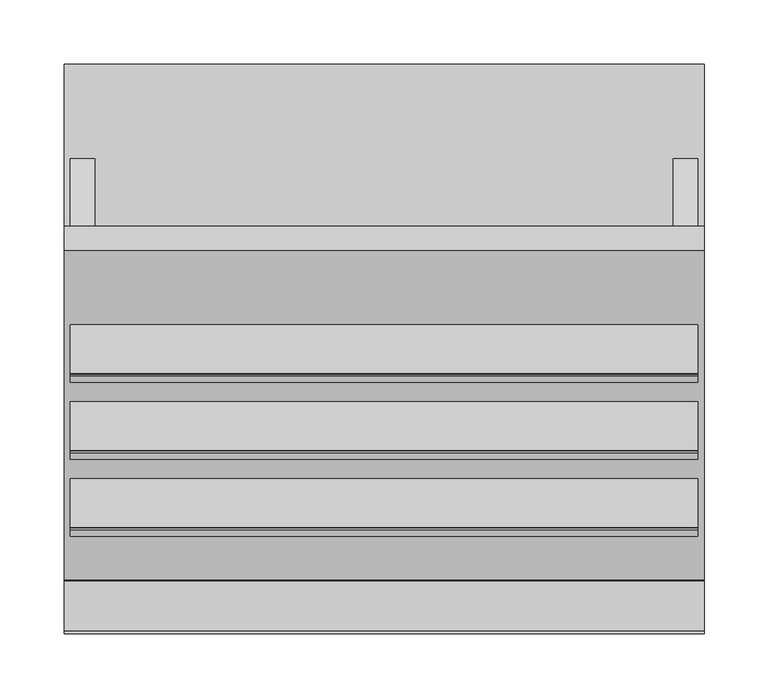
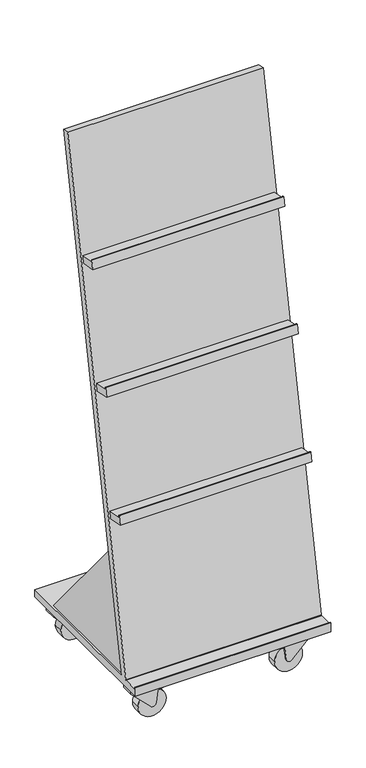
"""IFC4 building model written with IfcOpenShell, lengths in millimetres: furniture geometry, BK Library - Vaesteraas Floor Model - 1400 : BK Library - Vaesteraas Floor Model - 1400."""

from ifc_helpers import new_model, si_unit, point, frame, frame_2d, origin, place, context, project, spatial, polyline, circle_curve, trimmed, segment, composite_curve, outline, extrude, source, transform, mapped, element, save


def furniture_630a258a(model_context):
    return source(origin(), model_context, "Body", "SweptSolid", [
        extrude(outline(polyline([(148.8556172, 117.9690399), (-161.1443828, 117.9690399), (-101.9935942, 422.2734668), (148.8556172, 117.9690399)])), frame((226.0, 0.0, 0.0), z_axis=(1.0, 0.0, 0.0), x_axis=(0.0, 1.0, 0.0)), (0.0, 0.0, 1.0), 19.0),
        extrude(outline(polyline([(148.8556172, 117.9690399), (-161.1443828, 117.9690399), (-101.9935942, 422.2734668), (148.8556172, 117.9690399)])), frame((-245.0, 0.0, 0.0), z_axis=(1.0, 0.0, 0.0), x_axis=(0.0, 1.0, 0.0)), (0.0, 0.0, 1.0), 19.0),
        extrude(outline(composite_curve([segment(polyline([(-26.0537169, 1132.6416943), (-21.5733731, 1155.6910652)]), True, "CONTINUOUS"), segment(trimmed(circle_curve(frame_2d((-21.0636915, 1155.5919931)), 0.5192212), [point((-21.5733731, 1155.6910652))], [point((-20.9646195, 1156.1016747))], False, "CARTESIAN"), True, "CONTINUOUS"), segment(polyline([(-20.9646195, 1156.1016747), (-20.0306852, 1155.9201363)]), True, "CONTINUOUS"), segment(trimmed(circle_curve(frame_2d((-20.1316927, 1155.4004977)), 0.5293644), [point((-20.0306852, 1155.9201363))], [point((-19.6120542, 1155.2994902))], False, "CARTESIAN"), True, "CONTINUOUS"), segment(polyline([(-19.6120542, 1155.2994902), (-20.4650917, 1150.9109928), (18.7999957, 1143.278633), (15.1746248, 1124.6277165), (-26.0537169, 1132.6416943)]), True, "CONTINUOUS")], self_intersect=False)), frame((-245.0, 0.0, 0.0), z_axis=(1.0, 0.0, 0.0), x_axis=(0.0, 1.0, 0.0)), (0.0, 0.0, 1.0), 490.0),
        extrude(outline(composite_curve([segment(polyline([(-86.1585505, 823.4291316), (-81.6745391, 846.4973704)]), True, "CONTINUOUS"), segment(trimmed(circle_curve(frame_2d((-81.1837255, 846.4019659)), 0.5), [point((-81.6745391, 846.4973704))], [point((-81.088321, 846.8927795))], False, "CARTESIAN"), True, "CONTINUOUS"), segment(polyline([(-81.088321, 846.8927795), (-80.1066938, 846.7019705)]), True, "CONTINUOUS"), segment(trimmed(circle_curve(frame_2d((-80.2020983, 846.2111569)), 0.5), [point((-80.1066938, 846.7019705))], [point((-79.7112847, 846.1157524))], False, "CARTESIAN"), True, "CONTINUOUS"), segment(polyline([(-79.7112847, 846.1157524), (-80.5699252, 841.6984301), (-41.3048379, 834.0660702), (-44.9302088, 815.4151538), (-86.1585505, 823.4291316)]), True, "CONTINUOUS")], self_intersect=False)), frame((-245.0, 0.0, 0.0), z_axis=(1.0, 0.0, 0.0), x_axis=(0.0, 1.0, 0.0)), (0.0, 0.0, 1.0), 490.0),
        extrude(outline(composite_curve([segment(polyline([(-146.263384, 514.2165688), (-141.7793726, 537.2848076)]), True, "CONTINUOUS"), segment(trimmed(circle_curve(frame_2d((-141.2885591, 537.1894031)), 0.5), [point((-141.7793726, 537.2848076))], [point((-141.1931546, 537.6802167))], False, "CARTESIAN"), True, "CONTINUOUS"), segment(polyline([(-141.1931546, 537.6802167), (-140.2115274, 537.4894077)]), True, "CONTINUOUS"), segment(trimmed(circle_curve(frame_2d((-140.3069319, 536.9985941)), 0.5), [point((-140.2115274, 537.4894077))], [point((-139.8161183, 536.9031896))], False, "CARTESIAN"), True, "CONTINUOUS"), segment(polyline([(-139.8161183, 536.9031896), (-140.6747588, 532.4858673), (-101.4096714, 524.8535075), (-105.0350423, 506.202591), (-146.263384, 514.2165688)]), True, "CONTINUOUS")], self_intersect=False)), frame((-245.0, 0.0, 0.0), z_axis=(1.0, 0.0, 0.0), x_axis=(0.0, 1.0, 0.0)), (0.0, 0.0, 1.0), 490.0),
        extrude(outline(composite_curve([segment(polyline([(77.0921438, 1443.1657376), (95.7430602, 1439.5403667), (-161.1443828, 117.9690399), (222.5, 117.9690399), (222.5, 98.9690399), (-222.5, 98.9690399), (-222.5, 122.9690399), (-220.5, 122.9690399), (-220.5, 117.9690399), (-181.3243364, 117.9690399)]), True, "CONTINUOUS"), segment(trimmed(circle_curve(frame_2d((-181.3243364, 118.9690399)), 1.0), [point((-181.3243364, 117.9690399))], [point((-180.3427092, 118.7782309))], True, "CARTESIAN"), True, "CONTINUOUS"), segment(polyline([(-180.3427092, 118.7782309), (77.0921438, 1443.1657376)]), True, "CONTINUOUS")], self_intersect=False)), frame((-250.0, 0.0, 0.0), z_axis=(1.0, 0.0, 0.0), x_axis=(0.0, 1.0, 0.0)), (0.0, 0.0, 1.0), 500.0),
        extrude(outline(composite_curve([segment(trimmed(circle_curve(frame_2d((199.5292285, 171.1569734)), 12.5248147), [point((212.0540432, 171.1569734))], [point((187.0044137, 171.1569734))], False, "CARTESIAN"), True, "CONTINUOUS"), segment(trimmed(circle_curve(frame_2d((199.5292285, 171.1569734)), 12.5248147), [point((187.0044137, 171.1569734))], [point((212.0540432, 171.1569734))], False, "CARTESIAN"), True, "CONTINUOUS")], self_intersect=False)), frame((0.0, 0.0, 87.7), z_axis=(0.0, 0.0, 1.0), x_axis=(1.0, 0.0, 0.0)), (0.0, 0.0, 1.0), 11.2690399),
        extrude(outline(composite_curve([segment(trimmed(circle_curve(frame_2d((72.665374, 136.6185255)), 2.0), [point((72.665374, 134.6185255))], [point((70.6957585, 136.2712291))], False, "CARTESIAN"), True, "CONTINUOUS"), segment(polyline([(70.6957585, 136.2712291), (68.1469989, 150.7259632)]), True, "CONTINUOUS"), segment(trimmed(circle_curve(frame_2d((66.1773834, 150.3786669)), 2.0), [point((68.1469989, 150.7259632))], [point((66.4454242, 152.360624))], True, "CARTESIAN"), True, "CONTINUOUS"), segment(polyline([(66.4454242, 152.360624), (34.4278369, 156.6906969)]), True, "CONTINUOUS"), segment(trimmed(circle_curve(frame_2d((35.5, 164.6185255)), 8.0), [point((34.4278369, 156.6906969))], [point((29.8327739, 170.2649888))], False, "CARTESIAN"), True, "CONTINUOUS"), segment(polyline([(29.8327739, 170.2649888), (80.4985188, 221.1170388), (88.2, 221.1170388), (88.2, 134.6185255), (72.665374, 134.6185255)]), True, "CONTINUOUS")], self_intersect=False)), frame((0.0, 155.1101244, 0.0), z_axis=(0.0, 1.0, 0.0), x_axis=(0.0, 0.0, 1.0)), (0.0, 0.0, 1.0), 32.0),
        extrude(outline(composite_curve([segment(trimmed(circle_curve(frame_2d((35.6872146, 164.5149539)), 35.6947525), [point((35.6872146, 128.8202015))], [point((35.6872146, 200.2097064))], False, "CARTESIAN"), True, "CONTINUOUS"), segment(trimmed(circle_curve(frame_2d((35.6872146, 164.5149539)), 35.6947525), [point((35.6872146, 200.2097064))], [point((35.6872146, 128.8202015))], False, "CARTESIAN"), True, "CONTINUOUS")], self_intersect=False)), frame((0.0, 159.1101244, 0.0), z_axis=(0.0, 1.0, 0.0), x_axis=(0.0, 0.0, 1.0)), (0.0, 0.0, 1.0), 24.0),
        extrude(outline(composite_curve([segment(trimmed(circle_curve(frame_2d((199.5292285, -171.1569734)), 12.5248147), [point((212.0540432, -171.1569734))], [point((187.0044137, -171.1569734))], False, "CARTESIAN"), True, "CONTINUOUS"), segment(trimmed(circle_curve(frame_2d((199.5292285, -171.1569734)), 12.5248147), [point((187.0044137, -171.1569734))], [point((212.0540432, -171.1569734))], False, "CARTESIAN"), True, "CONTINUOUS")], self_intersect=False)), frame((0.0, 0.0, 87.7), z_axis=(0.0, 0.0, 1.0), x_axis=(1.0, 0.0, 0.0)), (0.0, 0.0, 1.0), 11.2690399),
        extrude(outline(composite_curve([segment(trimmed(circle_curve(frame_2d((72.665374, 136.6185255)), 2.0), [point((72.665374, 134.6185255))], [point((70.6957585, 136.2712291))], False, "CARTESIAN"), True, "CONTINUOUS"), segment(polyline([(70.6957585, 136.2712291), (68.1469989, 150.7259632)]), True, "CONTINUOUS"), segment(trimmed(circle_curve(frame_2d((66.1773834, 150.3786669)), 2.0), [point((68.1469989, 150.7259632))], [point((66.4454242, 152.360624))], True, "CARTESIAN"), True, "CONTINUOUS"), segment(polyline([(66.4454242, 152.360624), (34.4278369, 156.6906969)]), True, "CONTINUOUS"), segment(trimmed(circle_curve(frame_2d((35.5, 164.6185255)), 8.0), [point((34.4278369, 156.6906969))], [point((29.8327739, 170.2649888))], False, "CARTESIAN"), True, "CONTINUOUS"), segment(polyline([(29.8327739, 170.2649888), (80.4985188, 221.1170388), (88.2, 221.1170388), (88.2, 134.6185255), (72.665374, 134.6185255)]), True, "CONTINUOUS")], self_intersect=False)), frame((0.0, -187.1101244, 0.0), z_axis=(0.0, 1.0, 0.0), x_axis=(0.0, 0.0, 1.0)), (0.0, 0.0, 1.0), 32.0),
        extrude(outline(composite_curve([segment(trimmed(circle_curve(frame_2d((35.6872146, 164.5149539)), 35.6947525), [point((35.6872146, 128.8202015))], [point((35.6872146, 200.2097064))], False, "CARTESIAN"), True, "CONTINUOUS"), segment(trimmed(circle_curve(frame_2d((35.6872146, 164.5149539)), 35.6947525), [point((35.6872146, 200.2097064))], [point((35.6872146, 128.8202015))], False, "CARTESIAN"), True, "CONTINUOUS")], self_intersect=False)), frame((0.0, -183.1101244, 0.0), z_axis=(0.0, 1.0, 0.0), x_axis=(0.0, 0.0, 1.0)), (0.0, 0.0, 1.0), 24.0),
        extrude(outline(composite_curve([segment(trimmed(circle_curve(frame_2d((-199.5292285, -171.1569734)), 12.5248147), [point((-212.0540432, -171.1569734))], [point((-187.0044137, -171.1569734))], False, "CARTESIAN"), True, "CONTINUOUS"), segment(trimmed(circle_curve(frame_2d((-199.5292285, -171.1569734)), 12.5248147), [point((-187.0044137, -171.1569734))], [point((-212.0540432, -171.1569734))], False, "CARTESIAN"), True, "CONTINUOUS")], self_intersect=False)), frame((0.0, 0.0, 87.7), z_axis=(0.0, 0.0, 1.0), x_axis=(1.0, 0.0, 0.0)), (0.0, 0.0, 1.0), 11.2690399),
        extrude(outline(composite_curve([segment(polyline([(72.665374, -154.6185255), (88.2, -154.6185255), (88.2, -241.1170388), (80.4985188, -241.1170388), (29.8327739, -190.2649888)]), True, "CONTINUOUS"), segment(trimmed(circle_curve(frame_2d((35.5, -184.6185255)), 8.0), [point((29.8327739, -190.2649888))], [point((34.4278369, -176.6906969))], False, "CARTESIAN"), True, "CONTINUOUS"), segment(polyline([(34.4278369, -176.6906969), (66.4454242, -172.360624)]), True, "CONTINUOUS"), segment(trimmed(circle_curve(frame_2d((66.1773834, -170.3786669)), 2.0), [point((66.4454242, -172.360624))], [point((68.1469989, -170.7259632))], True, "CARTESIAN"), True, "CONTINUOUS"), segment(polyline([(68.1469989, -170.7259632), (70.6957585, -156.2712291)]), True, "CONTINUOUS"), segment(trimmed(circle_curve(frame_2d((72.665374, -156.6185255)), 2.0), [point((70.6957585, -156.2712291))], [point((72.665374, -154.6185255))], False, "CARTESIAN"), True, "CONTINUOUS")], self_intersect=False)), frame((0.0, -187.1101244, 0.0), z_axis=(0.0, 1.0, 0.0), x_axis=(0.0, 0.0, 1.0)), (0.0, 0.0, 1.0), 32.0),
        extrude(outline(composite_curve([segment(trimmed(circle_curve(frame_2d((35.6872146, -184.5149539)), 35.6947525), [point((35.6872146, -148.8202015))], [point((35.6872146, -220.2097064))], False, "CARTESIAN"), True, "CONTINUOUS"), segment(trimmed(circle_curve(frame_2d((35.6872146, -184.5149539)), 35.6947525), [point((35.6872146, -220.2097064))], [point((35.6872146, -148.8202015))], False, "CARTESIAN"), True, "CONTINUOUS")], self_intersect=False)), frame((0.0, -183.1101244, 0.0), z_axis=(0.0, 1.0, 0.0), x_axis=(0.0, 0.0, 1.0)), (0.0, 0.0, 1.0), 24.0),
        extrude(outline(composite_curve([segment(trimmed(circle_curve(frame_2d((-199.5292285, 171.1569734)), 12.5248147), [point((-212.0540432, 171.1569734))], [point((-187.0044137, 171.1569734))], False, "CARTESIAN"), True, "CONTINUOUS"), segment(trimmed(circle_curve(frame_2d((-199.5292285, 171.1569734)), 12.5248147), [point((-187.0044137, 171.1569734))], [point((-212.0540432, 171.1569734))], False, "CARTESIAN"), True, "CONTINUOUS")], self_intersect=False)), frame((0.0, 0.0, 87.7), z_axis=(0.0, 0.0, 1.0), x_axis=(1.0, 0.0, 0.0)), (0.0, 0.0, 1.0), 11.2690399),
        extrude(outline(composite_curve([segment(polyline([(72.665374, -154.6185255), (88.2, -154.6185255), (88.2, -241.1170388), (80.4985188, -241.1170388), (29.8327739, -190.2649888)]), True, "CONTINUOUS"), segment(trimmed(circle_curve(frame_2d((35.5, -184.6185255)), 8.0), [point((29.8327739, -190.2649888))], [point((34.4278369, -176.6906969))], False, "CARTESIAN"), True, "CONTINUOUS"), segment(polyline([(34.4278369, -176.6906969), (66.4454242, -172.360624)]), True, "CONTINUOUS"), segment(trimmed(circle_curve(frame_2d((66.1773834, -170.3786669)), 2.0), [point((66.4454242, -172.360624))], [point((68.1469989, -170.7259632))], True, "CARTESIAN"), True, "CONTINUOUS"), segment(polyline([(68.1469989, -170.7259632), (70.6957585, -156.2712291)]), True, "CONTINUOUS"), segment(trimmed(circle_curve(frame_2d((72.665374, -156.6185255)), 2.0), [point((70.6957585, -156.2712291))], [point((72.665374, -154.6185255))], False, "CARTESIAN"), True, "CONTINUOUS")], self_intersect=False)), frame((0.0, 155.1101244, 0.0), z_axis=(0.0, 1.0, 0.0), x_axis=(0.0, 0.0, 1.0)), (0.0, 0.0, 1.0), 32.0),
        extrude(outline(composite_curve([segment(trimmed(circle_curve(frame_2d((35.6872146, -184.5149539)), 35.6947525), [point((35.6872146, -148.8202015))], [point((35.6872146, -220.2097064))], False, "CARTESIAN"), True, "CONTINUOUS"), segment(trimmed(circle_curve(frame_2d((35.6872146, -184.5149539)), 35.6947525), [point((35.6872146, -220.2097064))], [point((35.6872146, -148.8202015))], False, "CARTESIAN"), True, "CONTINUOUS")], self_intersect=False)), frame((0.0, 159.1101244, 0.0), z_axis=(0.0, 1.0, 0.0), x_axis=(0.0, 0.0, 1.0)), (0.0, 0.0, 1.0), 24.0),
    ])


if __name__ == "__main__":
    model = new_model("IFC4")
    model_context = context("Model", 3, world=origin())
    ifc_project = project(units=[si_unit("LENGTHUNIT", "METRE", prefix="MILLI")], contexts=[model_context])
    site = spatial("IfcSite", under=ifc_project)
    building = spatial("IfcBuilding", under=site)
    placement = place(None, origin())
    furniture_shape = furniture_630a258a(model_context)
    element("IfcFurniture", 1, ObjectType="BK Library - Vaesteraas Floor Model - 1400 : BK Library - Vaesteraas Floor Model - 1400", at=placement, inside=building, context=model_context, shape_type="MappedRepresentation", body=[
        mapped(furniture_shape, transform((0.0, 0.0, 0.0), x_axis=(1.0, 0.0, 0.0), y_axis=(0.0, 1.0, 0.0), z_axis=(0.0, 0.0, 1.0))),
    ])
    save(model, "model.ifc")
